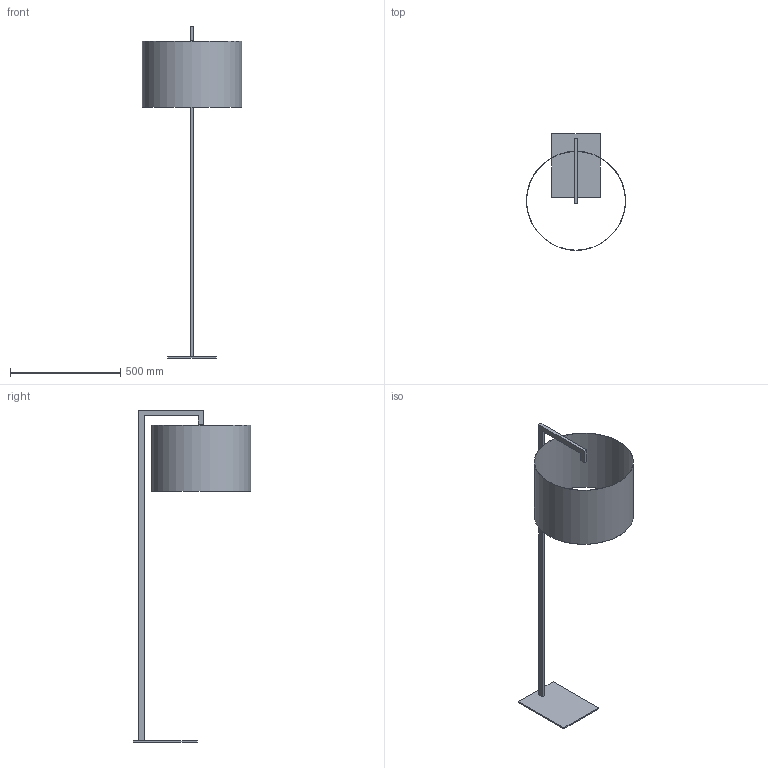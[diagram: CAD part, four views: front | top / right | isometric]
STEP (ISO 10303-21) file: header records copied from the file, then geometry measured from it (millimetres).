
FILE_DESCRIPTION( ( 'STEP AP203' ), '1' );
FILE_NAME( '//srvbf/BF Disegni/ASTRO/ASTRO-P Piantana 3D.stp', '2020-10-16T08:26:35', ( ' ' ), ( ' ' ), 'XStep 1.0', ' ', ' ' );
FILE_SCHEMA( ( 'CONFIG_CONTROL_DESIGN) ( )' ) );
Length unit declared in the file: metre
Products named in the file (2): 1; 2
Bounding box: 450 x 532.5 x 1506 mm (x, y, z)
Volume: 1484722.5 mm3; surface area: 1127686.2 mm2
Topology: 2 solids, 2 shells, 19 faces, 42 edges, 28 vertices
Faces by surface type: plane 17, cylinder 2
Full cylindrical faces by diameter (mm): 448 x1, 450 x1
Entity records: 602 total; most frequent: CARTESIAN_POINT 89, DIRECTION 86, ORIENTED_EDGE 80, EDGE_CURVE 40, LINE 36, VECTOR 36, VERTEX_POINT 28, AXIS2_PLACEMENT_3D 25
